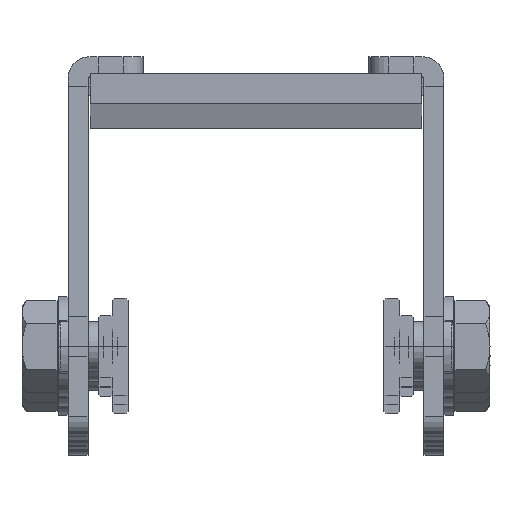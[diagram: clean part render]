
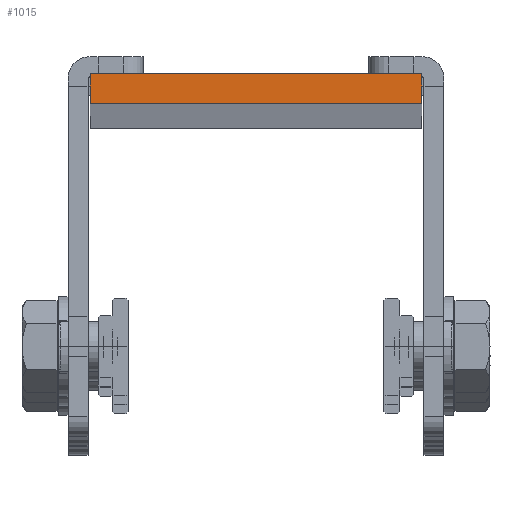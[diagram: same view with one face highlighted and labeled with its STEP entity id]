
A CAD part, top view. The second image highlights one B-rep face of the part: STEP entity #1015.
In plain terms, the highlighted planar face has unit normal (0, 0, 1).
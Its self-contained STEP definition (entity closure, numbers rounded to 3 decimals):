
#93=DIRECTION('',(1.,0.,0.));
#94=VECTOR('',#93,33.2);
#95=CARTESIAN_POINT('',(-16.6,0.,711.));
#96=LINE('',#95,#94);
#128=DIRECTION('',(0.,1.,0.));
#129=VECTOR('',#128,3.);
#130=CARTESIAN_POINT('',(16.6,0.,711.));
#131=LINE('',#130,#129);
#135=DIRECTION('',(0.,1.,0.));
#136=VECTOR('',#135,3.);
#137=CARTESIAN_POINT('',(-16.6,0.,711.));
#138=LINE('',#137,#136);
#163=DIRECTION('',(1.,0.,0.));
#164=VECTOR('',#163,33.2);
#165=CARTESIAN_POINT('',(-16.6,3.,711.));
#166=LINE('',#165,#164);
#809=CARTESIAN_POINT('',(-16.6,0.,711.));
#811=VERTEX_POINT('',#809);
#812=CARTESIAN_POINT('',(16.6,0.,711.));
#813=VERTEX_POINT('',#812);
#817=CARTESIAN_POINT('',(-16.6,3.,711.));
#819=VERTEX_POINT('',#817);
#820=CARTESIAN_POINT('',(16.6,3.,711.));
#821=VERTEX_POINT('',#820);
#1003=CARTESIAN_POINT('',(-16.6,0.,711.));
#1004=DIRECTION('',(0.,0.,1.));
#1005=DIRECTION('',(1.,0.,0.));
#1006=AXIS2_PLACEMENT_3D('',#1003,#1004,#1005);
#1007=PLANE('',#1006);
#1008=ORIENTED_EDGE('',*,*,#951,.F.);
#1009=ORIENTED_EDGE('',*,*,#970,.T.);
#1011=ORIENTED_EDGE('',*,*,#1010,.T.);
#1012=ORIENTED_EDGE('',*,*,#995,.F.);
#1013=EDGE_LOOP('',(#1008,#1009,#1011,#1012));
#1014=FACE_OUTER_BOUND('',#1013,.F.);
#1015=ADVANCED_FACE('',(#1014),#1007,.T.);
#951=EDGE_CURVE('',#811,#813,#96,.T.);
#970=EDGE_CURVE('',#811,#819,#138,.T.);
#995=EDGE_CURVE('',#813,#821,#131,.T.);
#1010=EDGE_CURVE('',#819,#821,#166,.T.);
